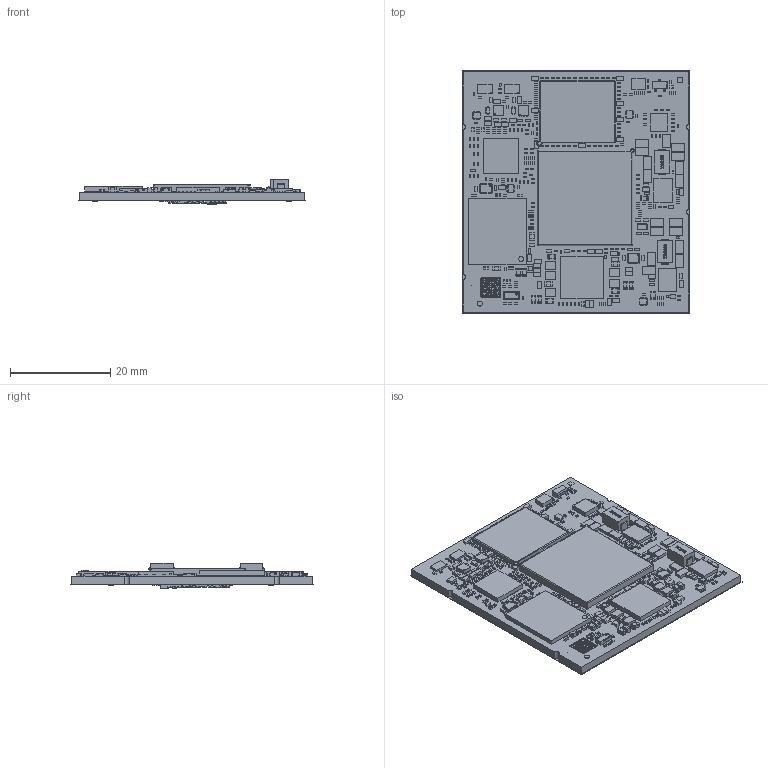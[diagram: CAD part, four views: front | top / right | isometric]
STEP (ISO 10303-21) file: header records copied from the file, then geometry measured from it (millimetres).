
FILE_DESCRIPTION(('STEP AP214'),'1');
FILE_NAME('1620.1_BoardAndModels.step','2024-09-05T09:23:39',(' '),(' '),'Spatial InterOp 3D','XD3DPlugin XRACreate',' ');
FILE_SCHEMA(('automotive_design'));
Length unit declared in the file: millimetre
Products named in the file (206): Submodel-N:\GROUP\DEVELOP\HARDWARE\PCL-079_phyCORE-iMX95__lpar_FPSC_rpar_\Design\1620.1\001\PCL-079\PCB\Layout\3D\Input_S\RC0603F1005CS.xtd; RC0603F1005CS; Submodel-RES5673_part_simplified_0201; DesignRootModel; Submodel-N:\GROUP\DEVELOP\HARDWARE\PCL-079_phyCORE-iMX95__lpar_FPSC_rpar_\Design\1620.1\001\PCL-079\PCB\Layout\3D\Input_S\TLV75801PDRVR.xtd; TLV75801PDRVR; Submodel-DCDC952_part_simplified_WSON6-65; Submodel-RES5953_part_simplified_0201; Submodel-N:\GROUP\DEVELOP\HARDWARE\PCL-079_phyCORE-iMX95__lpar_FPSC_rpar_\Design\1620.1\001\PCL-079\PCB\Layout\3D\Input_S\0201YC101KAZ2A.xtd; 0201YC101KAZ2A; Submodel-CAP3873_part_simplified_0201; Submodel-CAP3843_part_simplified_0201; Submodel-N:\GROUP\DEVELOP\HARDWARE\PCL-079_phyCORE-iMX95__lpar_FPSC_rpar_\Design\1620.1\001\PCL-079\PCB\Layout\3D\Input_S\TRANSISTOR932.xtd; TRANSISTOR932; Submodel-TRANSISTOR932_part_simplified_DFN-0806-3; Submodel-RES5803_part_simplified_0201; Submodel-RES5693_part_simplified_0201; Submodel-N:\GROUP\DEVELOP\HARDWARE\PCL-079_phyCORE-iMX95__lpar_FPSC_rpar_\Design\1620.1\001\PCL-079\PCB\Layout\3D\Input_S\CRCW020110R7JNEF.xtd; CRCW020110R7JNEF; Submodel-RES5653_part_simplified_0201; Submodel-N:\GROUP\DEVELOP\HARDWARE\PCL-079_phyCORE-iMX95__lpar_FPSC_rpar_\Design\1620.1\001\PCL-079\PCB\Layout\3D\Input_S\FLASH273.xtd; FLASH273; Submodel-FLASH273_part_simplified_BGA153-50-AC3; Submodel-N:\GROUP\DEVELOP\HARDWARE\PCL-079_phyCORE-iMX95__lpar_FPSC_rpar_\Design\1620.1\001\PCL-079\PCB\Layout\3D\Input_S\LQM2MPNR47NG0.xtd; LQM2MPNR47NG0; Submodel-IND2133_part_simplified_2016-DFE2016; Submodel-N:\GROUP\DEVELOP\HARDWARE\PCL-079_phyCORE-iMX95__lpar_FPSC_rpar_\Design\1620.1\001\PCL-079\PCB\Layout\3D\Input_S\RCC-0402-1000F.xtd; RCC-0402-1000F; Submodel-RES6113_part_simplified_0402; Submodel-RES5773_part_simplified_0201; Submodel-N:\GROUP\DEVELOP\HARDWARE\PCL-079_phyCORE-iMX95__lpar_FPSC_rpar_\Design\1620.1\001\PCL-079\PCB\Layout\3D\Input_S\xd_sod523_1.xtd; xd_sod523_1; Submodel-DIODE1213_part_simplified_SOD523-C3; Submodel-N:\GROUP\DEVELOP\HARDWARE\PCL-079_phyCORE-iMX95__lpar_FPSC_rpar_\Design\1620.1\001\PCL-079\PCB\Layout\3D\Input_S\GRM155R71C224KA12D.xtd; GRM155R71C224KA12D; Submodel-CAP1363_part_simplified_0402-C3; Submodel-N:\GROUP\DEVELOP\HARDWARE\PCL-079_phyCORE-iMX95__lpar_FPSC_rpar_\Design\1620.1\001\PCL-079\PCB\Layout\3D\Input_S\C0402C270F5GAC_0.xtd; C0402C270F5GAC_0; Submodel-CAP3193_part_simplified_0402-C3; Submodel-N:\GROUP\DEVELOP\HARDWARE\PCL-079_phyCORE-iMX95__lpar_FPSC_rpar_\Design\1620.1\001\PCL-079\PCB\Layout\3D\Input_S\GRM188Z71A106KA73D.xtd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
Assembly tree (658 placements, depth 6):
  1620.1_BoardAndModels
    DesignRootModel
      Submodel-RES5673_part_simplified_0201  x24
        Submodel-N:\GROUP\DEVELOP\HARDWARE\PCL-079_phyCORE-iMX95__lpar_FPSC_rpar_\Design\1620.1\001\PCL-079\PCB\Layout\3D\Input_S\RC0603F1005CS.xtd
          RC0603F1005CS
      Submodel-DCDC952_part_simplified_WSON6-65  x2
        Submodel-N:\GROUP\DEVELOP\HARDWARE\PCL-079_phyCORE-iMX95__lpar_FPSC_rpar_\Design\1620.1\001\PCL-079\PCB\Layout\3D\Input_S\TLV75801PDRVR.xtd
          TLV75801PDRVR
      Submodel-RES5953_part_simplified_0201  x5
        Submodel-N:\GROUP\DEVELOP\HARDWARE\PCL-079_phyCORE-iMX95__lpar_FPSC_rpar_\Design\1620.1\001\PCL-079\PCB\Layout\3D\Input_S\RC0603F1005CS.xtd
          RC0603F1005CS
      Submodel-CAP3873_part_simplified_0201  x32
        Submodel-N:\GROUP\DEVELOP\HARDWARE\PCL-079_phyCORE-iMX95__lpar_FPSC_rpar_\Design\1620.1\001\PCL-079\PCB\Layout\3D\Input_S\0201YC101KAZ2A.xtd
          0201YC101KAZ2A
      Submodel-CAP3843_part_simplified_0201  x150
        Submodel-N:\GROUP\DEVELOP\HARDWARE\PCL-079_phyCORE-iMX95__lpar_FPSC_rpar_\Design\1620.1\001\PCL-079\PCB\Layout\3D\Input_S\0201YC101KAZ2A.xtd
          0201YC101KAZ2A
      Submodel-TRANSISTOR932_part_simplified_DFN-0806-3  x6
        Submodel-N:\GROUP\DEVELOP\HARDWARE\PCL-079_phyCORE-iMX95__lpar_FPSC_rpar_\Design\1620.1\001\PCL-079\PCB\Layout\3D\Input_S\TRANSISTOR932.xtd
          TRANSISTOR932
      Submodel-RES5803_part_simplified_0201  x26
        Submodel-N:\GROUP\DEVELOP\HARDWARE\PCL-079_phyCORE-iMX95__lpar_FPSC_rpar_\Design\1620.1\001\PCL-079\PCB\Layout\3D\Input_S\RC0603F1005CS.xtd
          RC0603F1005CS
      Submodel-RES5693_part_simplified_0201  x15
        Submodel-N:\GROUP\DEVELOP\HARDWARE\PCL-079_phyCORE-iMX95__lpar_FPSC_rpar_\Design\1620.1\001\PCL-079\PCB\Layout\3D\Input_S\RC0603F1005CS.xtd
          RC0603F1005CS
      Submodel-RES5653_part_simplified_0201  x23
        Submodel-N:\GROUP\DEVELOP\HARDWARE\PCL-079_phyCORE-iMX95__lpar_FPSC_rpar_\Design\1620.1\001\PCL-079\PCB\Layout\3D\Input_S\CRCW020110R7JNEF.xtd
          CRCW020110R7JNEF
      Submodel-FLASH273_part_simplified_BGA153-50-AC3
        Submodel-N:\GROUP\DEVELOP\HARDWARE\PCL-079_phyCORE-iMX95__lpar_FPSC_rpar_\Design\1620.1\001\PCL-079\PCB\Layout\3D\Input_S\FLASH273.xtd
          FLASH273
      Submodel-IND2133_part_simplified_2016-DFE2016  x5
        Submodel-N:\GROUP\DEVELOP\HARDWARE\PCL-079_phyCORE-iMX95__lpar_FPSC_rpar_\Design\1620.1\001\PCL-079\PCB\Layout\3D\Input_S\LQM2MPNR47NG0.xtd
          LQM2MPNR47NG0
      Submodel-RES6113_part_simplified_0402
        Submodel-N:\GROUP\DEVELOP\HARDWARE\PCL-079_phyCORE-iMX95__lpar_FPSC_rpar_\Design\1620.1\001\PCL-079\PCB\Layout\3D\Input_S\RCC-0402-1000F.xtd
          RCC-0402-1000F
      Submodel-RES5773_part_simplified_0201  x13
        Submodel-N:\GROUP\DEVELOP\HARDWARE\PCL-079_phyCORE-iMX95__lpar_FPSC_rpar_\Design\1620.1\001\PCL-079\PCB\Layout\3D\Input_S\RC0603F1005CS.xtd
          RC0603F1005CS
      Submodel-DIODE1213_part_simplified_SOD523-C3  x2
        Submodel-N:\GROUP\DEVELOP\HARDWARE\PCL-079_phyCORE-iMX95__lpar_FPSC_rpar_\Design\1620.1\001\PCL-079\PCB\Layout\3D\Input_S\xd_sod523_1.xtd
          xd_sod523_1
      Submodel-CAP1363_part_simplified_0402-C3  x4
        Submodel-N:\GROUP\DEVELOP\HARDWARE\PCL-079_phyCORE-iMX95__lpar_FPSC_rpar_\Design\1620.1\001\PCL-079\PCB\Layout\3D\Input_S\GRM155R71C224KA12D.xtd
          GRM155R71C224KA12D
      Submodel-CAP3193_part_simplified_0402-C3  x9
        Submodel-N:\GROUP\DEVELOP\HARDWARE\PCL-079_phyCORE-iMX95__lpar_FPSC_rpar_\Design\1620.1\001\PCL-079\PCB\Layout\3D\Input_S\C0402C270F5GAC_0.xtd
          C0402C270F5GAC_0
      Submodel-CAP3343_part_simplified_0603-C3  x5
        Submodel-N:\GROUP\DEVELOP\HARDWARE\PCL-079_phyCORE-iMX95__lpar_FPSC_rpar_\Design\1620.1\001\PCL-079\PCB\Layout\3D\Input_S\GRM188Z71A106KA73D.xtd
          GRM188Z71A106KA73D
      Submodel-CAP3653_part_simplified_0402-C3
        Submodel-N:\GROUP\DEVELOP\HARDWARE\PCL-079_phyCORE-iMX95__lpar_FPSC_rpar_\Design\1620.1\001\PCL-079\PCB\Layout\3D\Input_S\C0402C270F5GAC_0.xtd
          C0402C270F5GAC_0
      Submodel-RES5713_part_simplified_0201  x18
        Submodel-N:\GROUP\DEVELOP\HARDWARE\PCL-079_phyCORE-iMX95__lpar_FPSC_rpar_\Design\1620.1\001\PCL-079\PCB\Layout\3D\Input_S\RC0603F1005CS.xtd
          RC0603F1005CS
      Submodel-RES6123_part_simplified_0201  x4
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Bounding box: 45.4 x 48.4 x 5.1 mm (x, y, z)
Volume: 4875.6 mm3; surface area: 12881.6 mm2
Topology: 818 solids, 818 shells, 7590 faces, 17795 edges, 11320 vertices
Faces by surface type: plane 5857, cylinder 1017, sphere 622, torus 54, bspline 40
Full cylindrical faces by diameter (mm): 0.25 x2
Entity records: 100039 total; most frequent: CARTESIAN_POINT 12759, DIRECTION 12725, ORIENTED_EDGE 10550, EDGE_CURVE 5275, AXIS2_PLACEMENT_3D 4342, LINE 4041, VECTOR 4041, PRESENTATION_STYLE_ASSIGNMENT 3524
